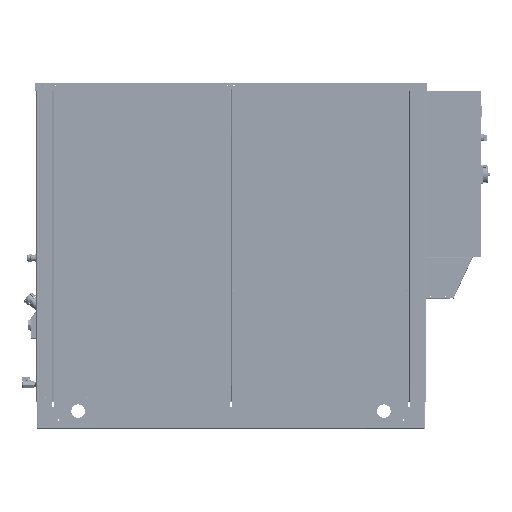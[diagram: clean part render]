
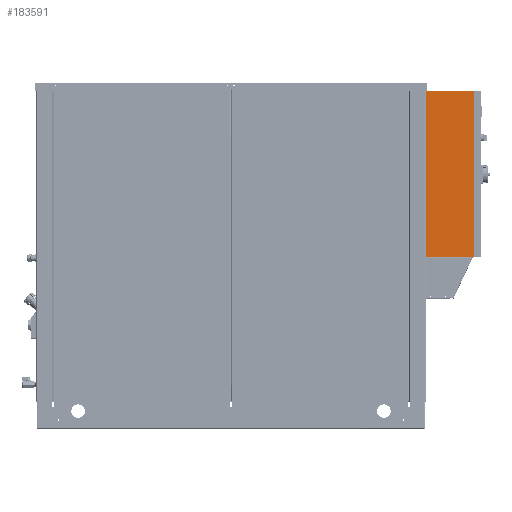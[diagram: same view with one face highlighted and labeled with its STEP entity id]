
A CAD part, top view. The second image highlights one B-rep face of the part: STEP entity #183591.
In plain terms, the highlighted planar face has unit normal (0, 0, 1) as drawn and (-1, 0, 0) by its records, which use the part's own axes.
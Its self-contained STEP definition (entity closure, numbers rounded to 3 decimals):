
#24322 = VERTEX_POINT ( 'NONE', #27722 ) ;
#24627 = VERTEX_POINT ( 'NONE', #139706 ) ;
#27722 = CARTESIAN_POINT ( 'NONE',  ( -200., -300., -87.5 ) ) ;
#28021 = VERTEX_POINT ( 'NONE', #102827 ) ;
#28130 = EDGE_CURVE ( 'NONE', #117540, #24627, #79610, .T. ) ;
#38254 = ORIENTED_EDGE ( 'NONE', *, *, #98185, .T. ) ;
#42181 = ORIENTED_EDGE ( 'NONE', *, *, #28130, .F. ) ;
#56923 = CARTESIAN_POINT ( 'NONE',  ( -200., 300., 87.5 ) ) ;
#58187 = FACE_OUTER_BOUND ( 'NONE', #150452, .T. ) ;
#59277 = EDGE_CURVE ( 'NONE', #28021, #24322, #161444, .T. ) ;
#62540 = ORIENTED_EDGE ( 'NONE', *, *, #123994, .F. ) ;
#64731 = LINE ( 'NONE', #123435, #168032 ) ;
#73550 = DIRECTION ( 'NONE',  ( 1., 0., 0. ) ) ;
#76628 = LINE ( 'NONE', #94536, #197409 ) ;
#79610 = LINE ( 'NONE', #115420, #147150 ) ;
#93972 = PLANE ( 'NONE',  #238394 ) ;
#94536 = CARTESIAN_POINT ( 'NONE',  ( -200., 300., 87.5 ) ) ;
#95232 = DIRECTION ( 'NONE',  ( 0., 0., -1. ) ) ;
#98185 = EDGE_CURVE ( 'NONE', #24322, #24627, #64731, .T. ) ;
#99533 = DIRECTION ( 'NONE',  ( 0., 0., 1. ) ) ;
#102827 = CARTESIAN_POINT ( 'NONE',  ( -200., 300., -87.5 ) ) ;
#115420 = CARTESIAN_POINT ( 'NONE',  ( -200., 300., 87.5 ) ) ;
#117489 = VECTOR ( 'NONE', #195979, 1000. ) ;
#117540 = VERTEX_POINT ( 'NONE', #159697 ) ;
#123435 = CARTESIAN_POINT ( 'NONE',  ( -200., -300., 87.5 ) ) ;
#123994 = EDGE_CURVE ( 'NONE', #28021, #117540, #76628, .T. ) ;
#139706 = CARTESIAN_POINT ( 'NONE',  ( -200., -300., 87.5 ) ) ;
#147150 = VECTOR ( 'NONE', #231415, 1000. ) ;
#150452 = EDGE_LOOP ( 'NONE', ( #38254, #42181, #62540, #226341 ) ) ;
#159697 = CARTESIAN_POINT ( 'NONE',  ( -200., 300., 87.5 ) ) ;
#161444 = LINE ( 'NONE', #235463, #117489 ) ;
#168032 = VECTOR ( 'NONE', #219045, 1000. ) ;
#183591 = ADVANCED_FACE ( 'NONE', ( #58187 ), #93972, .F. ) ;
#195979 = DIRECTION ( 'NONE',  ( 0., -1., 0. ) ) ;
#197409 = VECTOR ( 'NONE', #99533, 1000. ) ;
#219045 = DIRECTION ( 'NONE',  ( 0., 0., 1. ) ) ;
#226341 = ORIENTED_EDGE ( 'NONE', *, *, #59277, .T. ) ;
#231415 = DIRECTION ( 'NONE',  ( 0., -1., 0. ) ) ;
#235463 = CARTESIAN_POINT ( 'NONE',  ( -200., 300., -87.5 ) ) ;
#238394 = AXIS2_PLACEMENT_3D ( 'NONE', #56923, #73550, #95232 ) ;
